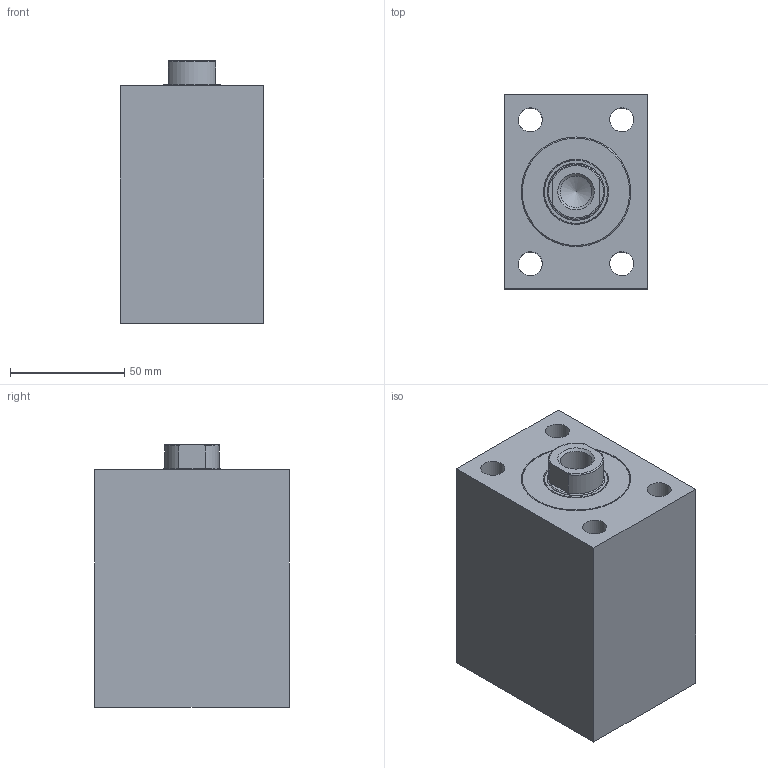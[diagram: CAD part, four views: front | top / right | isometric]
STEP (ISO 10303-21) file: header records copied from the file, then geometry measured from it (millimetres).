
FILE_DESCRIPTION( ( 'STEP AP203' ), '1' );
FILE_NAME( 'C:/Users/SAYKO.ltd/Desktop/SBZ100/02/SBZ100-40/SBZ100.40__FORM_02_STROKE_30__H2_58_POS_0_.stp', ' ', ( ' ' ), ( ' ' ), 'PSStep 15.0.47', 'PARTsolutions', ' ' );
FILE_SCHEMA( ( 'CONFIG_CONTROL_DESIGN' ) );
Length unit declared in the file: millimetre
Products named in the file (5): SBZ100.40  FORM=02 STROKE=30 (H2=58 POS=0); HI_SBZ10040  FORM=02 STROKE=30 H2=58 -C; HI_SBZ10040  FORM=02 STROKE=30-R; HI_SBZ100.40-C; HI_SBZ100.40-S
Assembly tree (4 placements, depth 2):
  SBZ100.40  FORM=02 STROKE=30 (H2=58 POS=0)
    HI_SBZ10040  FORM=02 STROKE=30 H2=58 -C
    HI_SBZ10040  FORM=02 STROKE=30-R
    HI_SBZ100.40-C
    HI_SBZ100.40-S
Bounding box: 63 x 85 x 115 mm (x, y, z)
Volume: 486747.5 mm3; surface area: 94699.9 mm2
Topology: 4 solids, 4 shells, 66 faces, 130 edges, 85 vertices
Faces by surface type: plane 31, cylinder 28, cone 4, torus 3
Full cylindrical faces by diameter (mm): 3 x2, 10.5 x4, 11.445 x2, 13.835 x1, 16 x2, 18 x4, 25 x4, 28.5 x1, 33 x2, 40 x2, 48 x2
Entity records: 3733 total; most frequent: CARTESIAN_POINT 2503, ORIENTED_EDGE 176, DIRECTION 158, EDGE_LOOP 128, FACE_OUTER_BOUND 93, EDGE_CURVE 88, VERTEX_POINT 77, B_SPLINE_CURVE_WITH_KNOTS 72
